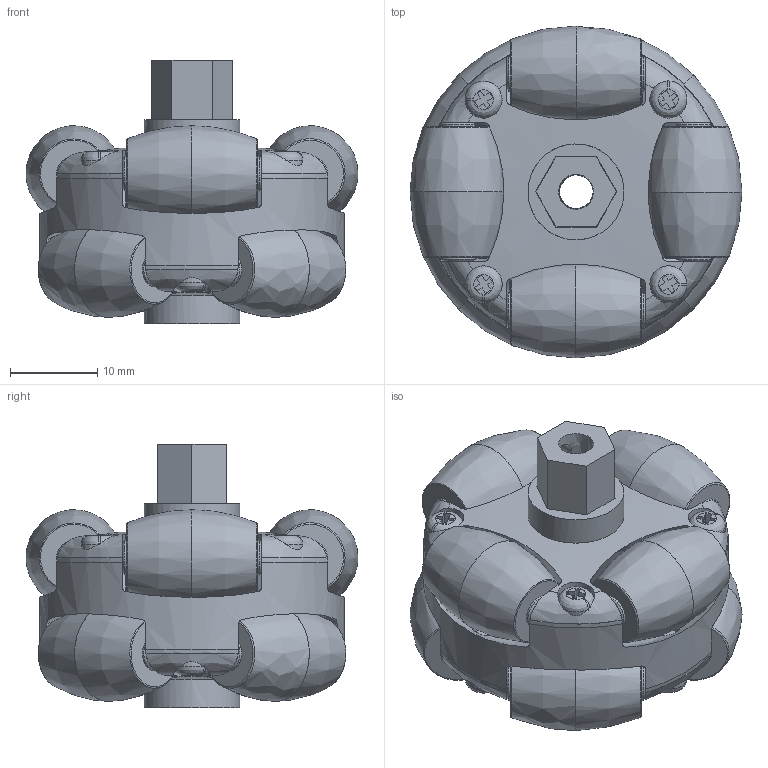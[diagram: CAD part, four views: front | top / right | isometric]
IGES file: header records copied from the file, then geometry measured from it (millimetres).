
Global section: file name: nexus 14184 38mm Omni Wheel v4; native system: unknown; preprocessor: unknown; author: unknown; organization: unknown; date: 20190813.180557; units: millimetre
Bounding box: 38.09 x 38.09 x 30.21 mm (x, y, z)
Volume: 17496.5 mm3; surface area: 17702.5 mm2
Topology: 52 solids, 60 shells, 716 faces, 1888 edges, 1286 vertices
Faces by surface type: bspline 716
